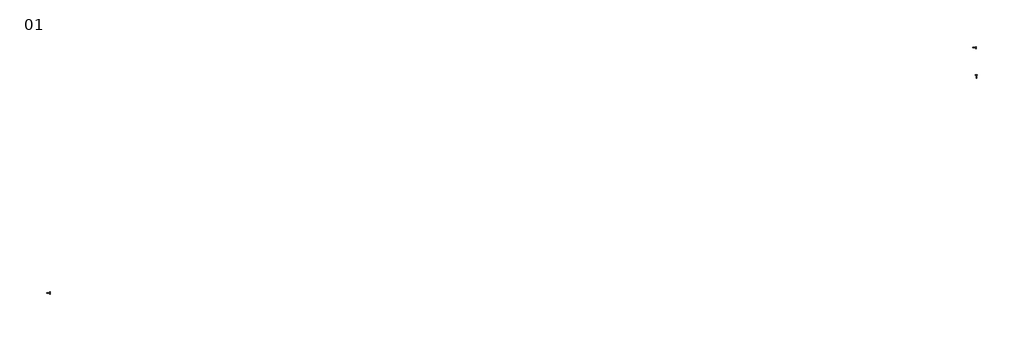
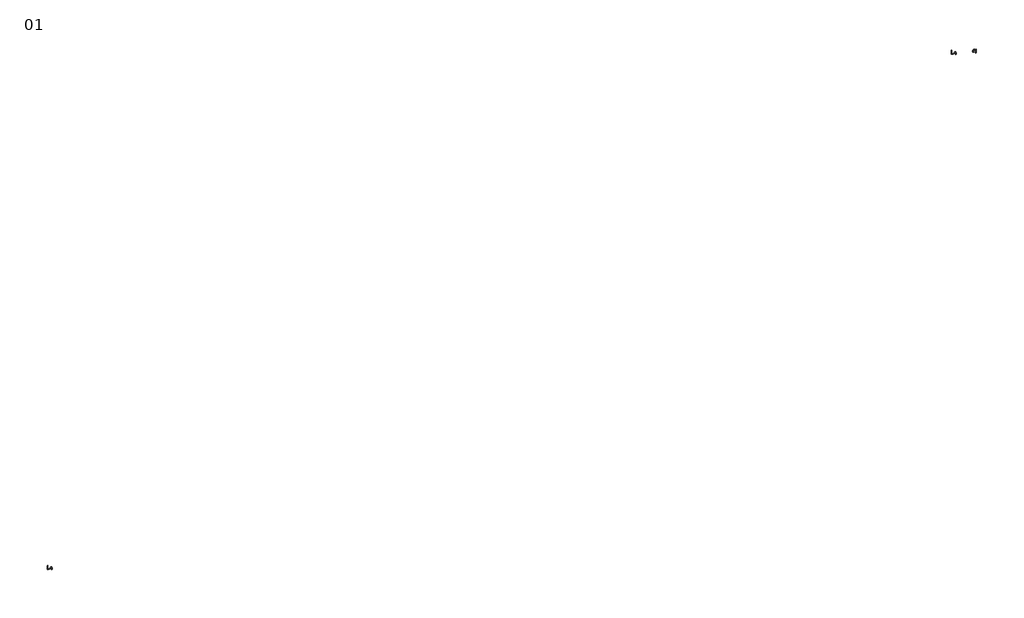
# One storey: 3 proxies.
"""IFC4 building model written with IfcOpenShell, lengths in millimetres."""

import ifcopenshell
import ifcopenshell.guid

model = None  # the IFC model being written
_history = None  # IfcOwnerHistory: only IFC2X3 demands one
_inside = {}  # id of a spatial element -> (the spatial element, [elements in it])
_under = {}  # id of a project, library or spatial element -> (it, [spatial elements below it])
_declared = {}  # id of a project -> (the project, [libraries it declares])
_typed = {}  # id of a type object -> (the type object, [elements of that type])
_made_of = {}  # id of a material, layer set ... -> (it, [elements and type objects made of it])


def new_model(schema):
    """Start an empty IFC model of exactly this schema.

    Asked for "IFC4X3", IfcOpenShell would pick the latest addendum, in which some entities
    have other attributes; the version numbers below select the first issue.
    IFC2X3 requires an IfcOwnerHistory on every rooted entity: one is made here for all.
    """
    global model, _history
    if schema == "IFC4X3":
        model = ifcopenshell.file(schema_version=(4, 3, 0, 0))
    else:
        model = ifcopenshell.file(schema=schema)
    _inside.clear()
    _under.clear()
    _declared.clear()
    _typed.clear()
    _made_of.clear()
    _history = None
    if model.schema == "IFC2X3":
        org = make("IfcOrganization", Name="unknown")
        user = make(
            "IfcPersonAndOrganization",
            ThePerson=make("IfcPerson", FamilyName="unknown"),
            TheOrganization=org,
        )
        app = make(
            "IfcApplication",
            ApplicationDeveloper=org,
            Version="unknown",
            ApplicationFullName="unknown",
            ApplicationIdentifier="unknown",
        )
        _history = make(
            "IfcOwnerHistory",
            OwningUser=user,
            OwningApplication=app,
            ChangeAction="ADDED",
            CreationDate=0,
        )
    return model


def make(cls, **values):
    """One entity of the class cls with the attributes given. An attribute that is None is left unset."""
    return model.create_entity(
        cls, **{name: value for name, value in values.items() if value is not None}
    )


def rooted(cls, **values):
    """An entity with a GlobalId (a new one), such as an element, a storey or a relation."""
    return make(cls, GlobalId=ifcopenshell.guid.new(), OwnerHistory=_history, **values)


def si_unit(unit_type, name, prefix=None):
    """IfcSIUnit, for example si_unit("LENGTHUNIT", "METRE", prefix="MILLI")."""
    return make("IfcSIUnit", UnitType=unit_type, Prefix=prefix, Name=name)


def assignment(units):
    """IfcUnitAssignment: the units of a project."""
    return None if units is None else make("IfcUnitAssignment", Units=units)


def point(xyz):
    """IfcCartesianPoint."""
    return None if xyz is None else make("IfcCartesianPoint", Coordinates=xyz)


def direction(xyz):
    """IfcDirection."""
    return None if xyz is None else make("IfcDirection", DirectionRatios=xyz)


def frame(location, z_axis=None, x_axis=None):
    """IfcAxis2Placement3D, a coordinate frame: its origin and axes. An axis left out is left unset."""
    return make(
        "IfcAxis2Placement3D",
        Location=point(location),
        Axis=direction(z_axis),
        RefDirection=direction(x_axis),
    )


def frame_2d(location, x_axis=None):
    """IfcAxis2Placement2D, a coordinate frame in the plane: its origin and x axis."""
    return make(
        "IfcAxis2Placement2D", Location=point(location), RefDirection=direction(x_axis)
    )


def origin():
    """The frame at (0, 0, 0) with its axes left unset."""
    return frame((0.0, 0.0, 0.0))


def origin_with_axes():
    """The frame at (0, 0, 0) with the z axis (0, 0, 1) and the x axis (1, 0, 0) written out."""
    return frame((0.0, 0.0, 0.0), z_axis=(0.0, 0.0, 1.0), x_axis=(1.0, 0.0, 0.0))


def place(relative_to, where):
    """IfcLocalPlacement: puts the frame where relative to a parent placement (None: the world)."""
    return make(
        "IfcLocalPlacement", PlacementRelTo=relative_to, RelativePlacement=where
    )


def context(
    kind, dimensions, precision=None, world=None, true_north=None, identifier=None
):
    """IfcGeometricRepresentationContext, for example the 3D "Model" context."""
    return make(
        "IfcGeometricRepresentationContext",
        ContextIdentifier=identifier,
        ContextType=kind,
        CoordinateSpaceDimension=dimensions,
        Precision=precision,
        WorldCoordinateSystem=world,
        TrueNorth=true_north,
    )


def project(units=None, contexts=None):
    """IfcProject with its units and contexts."""
    return rooted(
        "IfcProject",
        Name="project",
        RepresentationContexts=contexts,
        UnitsInContext=assignment(units),
    )


def spatial(cls, under=None, at=None, **own):
    """A site, building, storey or space (cls), placed at a placement, below another one or the project."""
    s = rooted(cls, ObjectPlacement=at, **own)
    if under is not None:
        _under.setdefault(under.id(), (under, []))[1].append(s)
    return s


def circle_curve(where, radius):
    """IfcCircle in the frame where."""
    return make("IfcCircle", Position=where, Radius=radius)


def ellipse_curve(where, semi_axis1, semi_axis2):
    """IfcEllipse in the frame where."""
    return make(
        "IfcEllipse", Position=where, SemiAxis1=semi_axis1, SemiAxis2=semi_axis2
    )


def trimmed(basis, trim1, trim2, sense, master):
    """IfcTrimmedCurve: the piece of a basis curve between two trims."""
    return make(
        "IfcTrimmedCurve",
        BasisCurve=basis,
        Trim1=trim1,
        Trim2=trim2,
        SenseAgreement=sense,
        MasterRepresentation=master,
    )


def segment(curve, same_sense, transition):
    """IfcCompositeCurveSegment."""
    return make(
        "IfcCompositeCurveSegment",
        Transition=transition,
        SameSense=same_sense,
        ParentCurve=curve,
    )


def composite_curve(segments, self_intersect=None):
    """IfcCompositeCurve: segments joined end to end."""
    return make("IfcCompositeCurve", Segments=segments, SelfIntersect=self_intersect)


def outline(outer, holes=None, kind="AREA"):
    """IfcArbitraryClosedProfileDef: a profile drawn as a closed curve; with holes, ...WithVoids."""
    if holes is None:
        return make("IfcArbitraryClosedProfileDef", ProfileType=kind, OuterCurve=outer)
    return make(
        "IfcArbitraryProfileDefWithVoids",
        ProfileType=kind,
        OuterCurve=outer,
        InnerCurves=holes,
    )


def extrude(swept, where, along, depth):
    """IfcExtrudedAreaSolid: the profile swept, set in the frame where, extruded along a direction by depth."""
    return make(
        "IfcExtrudedAreaSolid",
        SweptArea=swept,
        Position=where,
        ExtrudedDirection=direction(along),
        Depth=depth,
    )


def shape(context_of_items, identifier, shape_type, items):
    """IfcShapeRepresentation: the items that make up one representation, for example the "Body"."""
    return make(
        "IfcShapeRepresentation",
        ContextOfItems=context_of_items,
        RepresentationIdentifier=identifier,
        RepresentationType=shape_type,
        Items=items,
    )


def source(mapping_origin, context_of_items, identifier, shape_type, items):
    """IfcRepresentationMap: a shape defined once, which mapped items show again and again."""
    return make(
        "IfcRepresentationMap",
        MappingOrigin=mapping_origin,
        MappedRepresentation=shape(context_of_items, identifier, shape_type, items),
    )


def transform(
    local_origin,
    x_axis=None,
    y_axis=None,
    z_axis=None,
    scale=None,
    scale2=None,
    scale3=None,
    uniform=True,
):
    """IfcCartesianTransformationOperator3D, or its non-uniform kind. x_axis, y_axis, z_axis: its Axis1, 2, 3."""
    if uniform:
        return make(
            "IfcCartesianTransformationOperator3D",
            Axis1=direction(x_axis),
            Axis2=direction(y_axis),
            LocalOrigin=point(local_origin),
            Scale=scale,
            Axis3=direction(z_axis),
        )
    return make(
        "IfcCartesianTransformationOperator3DnonUniform",
        Axis1=direction(x_axis),
        Axis2=direction(y_axis),
        LocalOrigin=point(local_origin),
        Scale=scale,
        Axis3=direction(z_axis),
        Scale2=scale2,
        Scale3=scale3,
    )


def mapped(mapping_source, mapping_target):
    """IfcMappedItem: shows the shape of a source again, moved by a transform."""
    return make(
        "IfcMappedItem", MappingSource=mapping_source, MappingTarget=mapping_target
    )


def made_of(thing, what):
    """Note that an element or type object is made of a material, layer set ...; save() writes the relation."""
    if what is not None:
        _made_of.setdefault(what.id(), (what, []))[1].append(thing)
    return thing


def element(
    cls,
    number,
    at=None,
    inside=None,
    cuts=None,
    type_object=None,
    material=None,
    context=None,
    identifier="Body",
    shape_type=None,
    held_by="IfcProductDefinitionShape",
    body=None,
    shapes=None,
    **own,
):
    """One element of the class cls, such as IfcWall. Its Tag is "e" and its number.

    at: its placement. inside: the storey or other place that contains it. cuts: it is an
    opening in that element (IfcRelVoidsElement). A single representation is given by context,
    identifier, shape_type and body (its items); several are given by shapes. held_by: the class
    of the entity that holds the representations. save() writes the other relations.
    """
    e = rooted(cls, Tag="e%d" % number, ObjectPlacement=at, **own)
    if body is not None:
        shapes = [shape(context, identifier, shape_type, body)]
    if shapes is not None:
        e.Representation = make(held_by, Representations=shapes)
    if inside is not None:
        _inside.setdefault(inside.id(), (inside, []))[1].append(e)
    if cuts is not None:
        rooted(
            "IfcRelVoidsElement", RelatingBuildingElement=cuts, RelatedOpeningElement=e
        )
    if type_object is not None:
        _typed.setdefault(type_object.id(), (type_object, []))[1].append(e)
    return made_of(e, material)


def aggregate(whole, parts):
    """IfcRelAggregates: a whole, such as a stair, and the parts it consists of."""
    return rooted("IfcRelAggregates", RelatingObject=whole, RelatedObjects=parts)


def save(model, path):
    """Write the relations noted so far, then the file.

    IfcRelAggregates (storeys below a building ...), IfcRelContainedInSpatialStructure (elements
    in a storey), IfcRelDefinesByType, IfcRelAssociatesMaterial and IfcRelDeclares: one each for
    every whole, place, type object, material and project.
    """
    for whole, parts in _under.values():
        aggregate(whole, parts)
    for where, things in _inside.values():
        rooted(
            "IfcRelContainedInSpatialStructure",
            RelatedElements=things,
            RelatingStructure=where,
        )
    for kind, things in _typed.values():
        rooted("IfcRelDefinesByType", RelatedObjects=things, RelatingType=kind)
    for what, things in _made_of.values():
        rooted("IfcRelAssociatesMaterial", RelatedObjects=things, RelatingMaterial=what)
    for by, libraries in _declared.values():
        rooted("IfcRelDeclares", RelatingContext=by, RelatedDefinitions=libraries)
    model.write(path)


def plane_surface(at):
    """IfcPlane: the flat surface through the origin of the frame at, square to its z axis."""
    return make("IfcPlane", Position=at)


def cylinder_surface(at, radius):
    """IfcCylindricalSurface: all points at the distance radius from the z axis of the frame at."""
    return make("IfcCylindricalSurface", Position=at, Radius=radius)


def revolved_surface(curve, axis_point, axis_direction):
    """IfcSurfaceOfRevolution: the curve turned about the line through axis_point along axis_direction."""
    return make(
        "IfcSurfaceOfRevolution",
        SweptCurve=make("IfcArbitraryOpenProfileDef", ProfileType="CURVE", Curve=curve),
        AxisPosition=make("IfcAxis1Placement", Location=point(axis_point), Axis=direction(axis_direction)),
    )


def advanced_brep(points, edges, surfaces, faces):
    """IfcAdvancedBrep: a solid bounded by faces that lie on surfaces and meet in shared edges.

    An edge is (start, end): straight between two places in points (the first is 0);
    or (start, end, curve); or (start, end, curve, False) where it runs against its curve.
    A face is (place in surfaces, loops), or (place, loops, False) where it looks against
    its surface's normal. A loop lists edges by number (the first is 1), with a minus sign
    where the edge is run from its end to its start. The first loop is the outer one.
    """
    corners = [point(p) for p in points]
    vertices = [make("IfcVertexPoint", VertexGeometry=c) for c in corners]
    made = []
    for start, end, *more in edges:
        made.append(
            make(
                "IfcEdgeCurve",
                EdgeStart=vertices[start],
                EdgeEnd=vertices[end],
                EdgeGeometry=more[0] if more else make("IfcPolyline", Points=[corners[start], corners[end]]),
                SameSense=more[1] if len(more) > 1 else True,
            )
        )
    hull = []
    for where, loops, *sense in faces:
        bounds = []
        for j, loop in enumerate(loops):
            ring = [make("IfcOrientedEdge", EdgeElement=made[abs(k) - 1], Orientation=k > 0) for k in loop]
            bounds.append(
                make(
                    "IfcFaceOuterBound" if j == 0 else "IfcFaceBound",
                    Bound=make("IfcEdgeLoop", EdgeList=ring),
                    Orientation=True,
                )
            )
        hull.append(make("IfcAdvancedFace", Bounds=bounds, FaceSurface=surfaces[where], SameSense=sense[0] if sense else True))
    return make("IfcAdvancedBrep", Outer=make("IfcClosedShell", CfsFaces=hull))


def support_circular_support_bend_943144f1(model_context):
    return source(origin(), model_context, "Body", "SolidModel", [
        advanced_brep(
        [(-6.0, 0.0, 0.0), (6.0, 0.0, 0.0), (-6.0, 0.0, -63.0), (6.0, 0.0, -63.0), (6.0, 12.0, -75.0), (-6.0, 12.0, -75.0), (-6.0, 68.0, -75.0), (6.0, 68.0, -75.0)],
        [
            (0, 1, circle_curve(origin_with_axes(), 6.0)),
            (1, 0, circle_curve(origin_with_axes(), 6.0)),
            (0, 2),
            (2, 3, circle_curve(frame((0.0, 0.0, -63.0), z_axis=(0.0, 0.0, 1.0), x_axis=(1.0, 0.0, 0.0)), 6.0)),
            (3, 1),
            (3, 2, circle_curve(frame((0.0, 0.0, -63.0), z_axis=(0.0, 0.0, 1.0), x_axis=(1.0, 0.0, 0.0)), 6.0)),
            (4, 3, circle_curve(frame((6.0, 12.0, -63.0), z_axis=(-1.0, 0.0, 0.0), x_axis=(0.0, -1.0, 0.0)), 12.0)),
            (2, 5, circle_curve(frame((-6.0, 12.0, -63.0), z_axis=(1.0, 0.0, 0.0), x_axis=(0.0, -1.0, 0.0)), 12.0)),
            (5, 4, circle_curve(frame((0.0, 12.0, -75.0), z_axis=(0.0, -1.0, 0.0), x_axis=(1.0, 0.0, 0.0)), 6.0)),
            (4, 5, circle_curve(frame((0.0, 12.0, -75.0), z_axis=(0.0, -1.0, 0.0), x_axis=(1.0, 0.0, 0.0)), 6.0)),
            (6, 7, circle_curve(frame((0.0, 68.0, -75.0), z_axis=(0.0, 1.0, 0.0), x_axis=(1.0, 0.0, 0.0)), 6.0)),
            (7, 6, circle_curve(frame((0.0, 68.0, -75.0), z_axis=(0.0, 1.0, 0.0), x_axis=(1.0, 0.0, 0.0)), 6.0)),
            (5, 6),
            (7, 4),
        ],
        [
            plane_surface(origin_with_axes()),
            cylinder_surface(origin_with_axes(), 6.0),
            revolved_surface(trimmed(ellipse_curve(frame((0.0, 0.0, -63.0), z_axis=(0.0, 0.0, 1.0), x_axis=(1.0, 0.0, 0.0)), 6.0, 6.0), [point((-6.0, 0.0, -63.0))], [point((6.0, 0.0, -63.0))], True, "CARTESIAN"), (0.0, 12.0, -63.0), (1.0, 0.0, 0.0)),
            revolved_surface(trimmed(ellipse_curve(frame((0.0, 0.0, -63.0), z_axis=(0.0, 0.0, 1.0), x_axis=(1.0, 0.0, 0.0)), 6.0, 6.0), [point((6.0, 0.0, -63.0))], [point((-6.0, 0.0, -63.0))], True, "CARTESIAN"), (0.0, 12.0, -63.0), (1.0, 0.0, 0.0)),
            plane_surface(frame((0.0, 68.0, -75.0), z_axis=(0.0, 1.0, 0.0), x_axis=(1.0, 0.0, 0.0))),
            cylinder_surface(frame((0.0, 12.0, -75.0), z_axis=(0.0, -1.0, 0.0), x_axis=(1.0, 0.0, 0.0)), 6.0),
        ],
        [
            (0, [[1, 2]]),
            (1, [[-1, 3, 4, 5]]),
            (1, [[-2, -5, 6, -3]]),
            (2, [[7, -4, 8, 9]]),
            (3, [[-8, -6, -7, 10]]),
            (4, [[11, 12]]),
            (5, [[-9, 13, -12, 14]]),
            (5, [[-10, -14, -11, -13]]),
        ],
    ),
        extrude(outline(composite_curve([segment(trimmed(circle_curve(frame_2d((-75.0, 0.0)), 25.0), [point((-75.0, -25.0))], [point((-75.0, 25.0))], False, "CARTESIAN"), True, "CONTINUOUS"), segment(trimmed(circle_curve(frame_2d((-75.0, 0.0)), 25.0), [point((-75.0, 25.0))], [point((-75.0, -25.0))], False, "CARTESIAN"), True, "CONTINUOUS")], self_intersect=False)), frame((0.0, 68.0, 0.0), z_axis=(0.0, 1.0, 0.0), x_axis=(0.0, 0.0, 1.0)), (0.0, 0.0, 1.0), 12.0),
    ])


model = new_model("IFC4")

# Units and contexts
model_context = context("Model", 3, world=origin())
ifc_project = project(units=[si_unit("LENGTHUNIT", "METRE", prefix="MILLI")], contexts=[model_context])

# Site, building, storey
site = spatial("IfcSite", under=ifc_project)
building = spatial("IfcBuilding", under=site)
storey = spatial("IfcBuildingStorey", under=building, Name="01", Elevation=4500.0)

# Proxies
placement = place(None, origin())
support_circular_support_bend_shape = support_circular_support_bend_943144f1(model_context)
element("IfcBuildingElementProxy", 1, Name="Support_ Circular : Support_Bend", ObjectType="Support_ Circular : Support_Bend", at=placement, inside=storey, context=model_context, shape_type="MappedRepresentation", body=[
    mapped(support_circular_support_bend_shape, transform((424845.9206883, -391150.1319314, 4985.6775757), x_axis=(0.0, -1.0, 0.0), y_axis=(1.0, 0.0, 0.0), z_axis=(0.0, 0.0, 1.0))),
])
element("IfcBuildingElementProxy", 2, Name="Support_ Circular : Support_Bend", ObjectType="Support_ Circular : Support_Bend", at=placement, inside=storey, context=model_context, shape_type="MappedRepresentation", body=[
    mapped(support_circular_support_bend_shape, transform((445607.9206883, -385650.2172722, 4985.1287802), x_axis=(0.0, -1.0, 0.0), y_axis=(1.0, 0.0, 0.0), z_axis=(0.0, 0.0, 1.0))),
])
element("IfcBuildingElementProxy", 3, Name="Support_ Circular : Support_Bend", ObjectType="Support_ Circular : Support_Bend", at=placement, inside=storey, context=model_context, shape_type="MappedRepresentation", body=[
    mapped(support_circular_support_bend_shape, transform((445687.9206883, -386335.0026386, 5400.0), x_axis=(1.0, 0.0, 0.0), y_axis=(0.0, 1.0, 0.0), z_axis=(0.0, 0.0, 1.0))),
])

save(model, "model.ifc")
